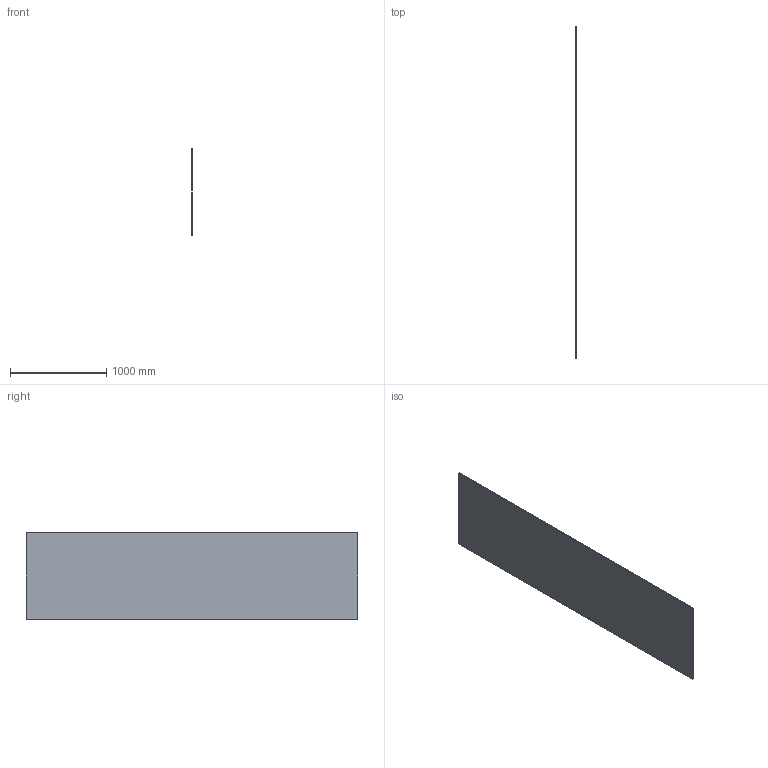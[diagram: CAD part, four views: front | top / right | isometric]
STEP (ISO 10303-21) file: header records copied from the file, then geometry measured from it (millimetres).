
FILE_DESCRIPTION(('Open CASCADE Model'),'2;1');
FILE_NAME('Open CASCADE Shape Model','2026-09-19T12:55:11',('Author'),( 'Open CASCADE'),'Open CASCADE STEP processor 7.9','Open CASCADE 7.9' ,'Unknown');
FILE_SCHEMA(('AUTOMOTIVE_DESIGN { 1 0 10303 214 1 1 1 1 }'));
Length unit declared in the file: millimetre
Products named in the file (1): Open CASCADE STEP translator 7.9 24
Bounding box: 10 x 3450 x 900 mm (x, y, z)
Volume: 31050000 mm3; surface area: 6297000 mm2
Topology: 1 solids, 1 shells, 6 faces, 12 edges, 8 vertices
Faces by surface type: plane 6
Entity records: 322 total; most frequent: CARTESIAN_POINT 51, DIRECTION 50, LINE 36, VECTOR 36, ORIENTED_EDGE 24, PCURVE 24, DEFINITIONAL_REPRESENTATION 24, EDGE_CURVE 12
